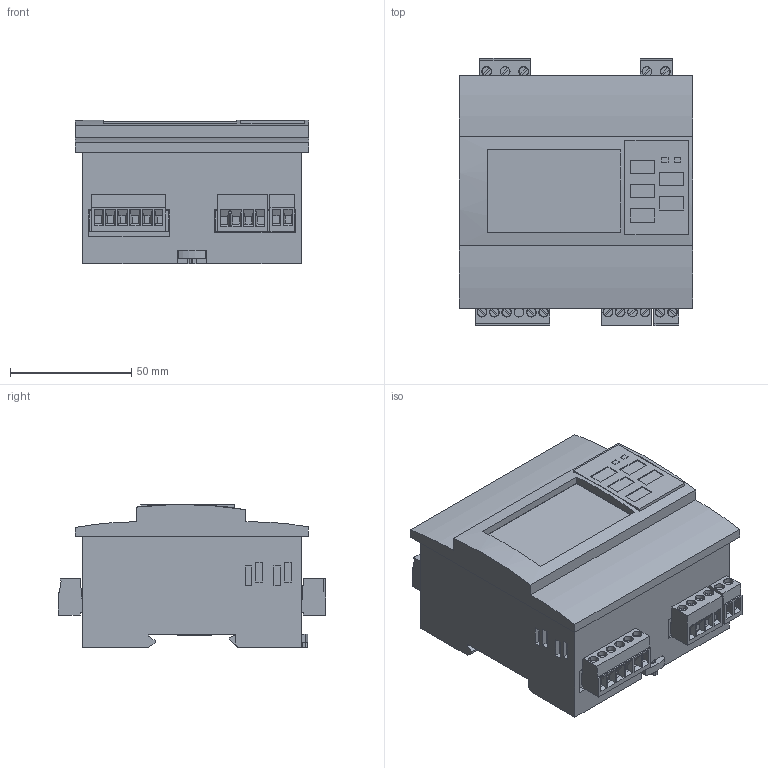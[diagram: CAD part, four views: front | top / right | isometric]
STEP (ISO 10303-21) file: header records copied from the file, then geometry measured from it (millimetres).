
FILE_DESCRIPTION((''),'2;1');
FILE_NAME('1744635970802_ASM','2025-04-14T18:36:39',('SESA644935'),('Schneider-Electric'),'CREO PARAMETRIC BY PTC INC, 2022484','CREO PARAMETRIC BY PTC INC, 2022484','');
FILE_SCHEMA(('AP242_MANAGED_MODEL_BASED_3D_ENGINEERING_MIM_LF { 1 0 10303 442 1 1 4 }'));
Length unit declared in the file: millimetre
Products named in the file (19): EMPTYNODE_1744635970851_ASM; INS-MONITORING-IM20H; IMD-IM20-H-3D_ASM; GMSTB_2_5-2-ST-7_62-63290_1; GMSTB_2_5-2-ST-7_62-65370_ASM_1_ASM; PXC-1766990-3D_ASM; GMSTB_2_5-3-ST-7_62-90200_1_C; GMSTB_2_5-3-ST-7_62-93010_ASMC_ASM; PXC-1767012-3D_ASM; MSTB-2_5-CLAMP-SLEEVE_1; MSTB-2_5-GEH_1; MSTB_2_5-2-ST-5_08_ASM_1_ASM; PXC-1757019-3D_ASM; 1757035_MIG17; PXC-1757035-3D_ASM; MSTB-2_5-ST-5_08-410010_3; MSTB-2_5-ST-5_08-420880_ASM_2_ASM; PXC-1757051-3D_ASM; 1744635970802_ASM
Assembly tree (19 placements, depth 4):
  1744635970802_ASM
    EMPTYNODE_1744635970851_ASM
    IMD-IM20-H-3D_ASM
      INS-MONITORING-IM20H
    PXC-1766990-3D_ASM
      GMSTB_2_5-2-ST-7_62-65370_ASM_1_ASM
        GMSTB_2_5-2-ST-7_62-63290_1
    PXC-1767012-3D_ASM
      GMSTB_2_5-3-ST-7_62-93010_ASMC_ASM
        GMSTB_2_5-3-ST-7_62-90200_1_C
    PXC-1757019-3D_ASM
      MSTB_2_5-2-ST-5_08_ASM_1_ASM
        MSTB-2_5-CLAMP-SLEEVE_1  x2
        MSTB-2_5-GEH_1
    PXC-1757035-3D_ASM
      1757035_MIG17
    PXC-1757051-3D_ASM
      MSTB-2_5-ST-5_08-420880_ASM_2_ASM
        MSTB-2_5-ST-5_08-410010_3
Bounding box: 96 x 110 x 58.96 mm (x, y, z)
Volume: 432106.6 mm3; surface area: 65061.5 mm2
Topology: 7 solids, 9 shells, 1340 faces, 3488 edges, 2290 vertices
Faces by surface type: plane 1084, cylinder 210, cone 46
Entity records: 55852 total; most frequent: CARTESIAN_POINT 7365, ORIENTED_EDGE 6920, DIRECTION 6799, PRESENTATION_STYLE_ASSIGNMENT 3816, STYLED_ITEM 3473, CURVE_STYLE 3464, EDGE_CURVE 3464, VECTOR 2813
